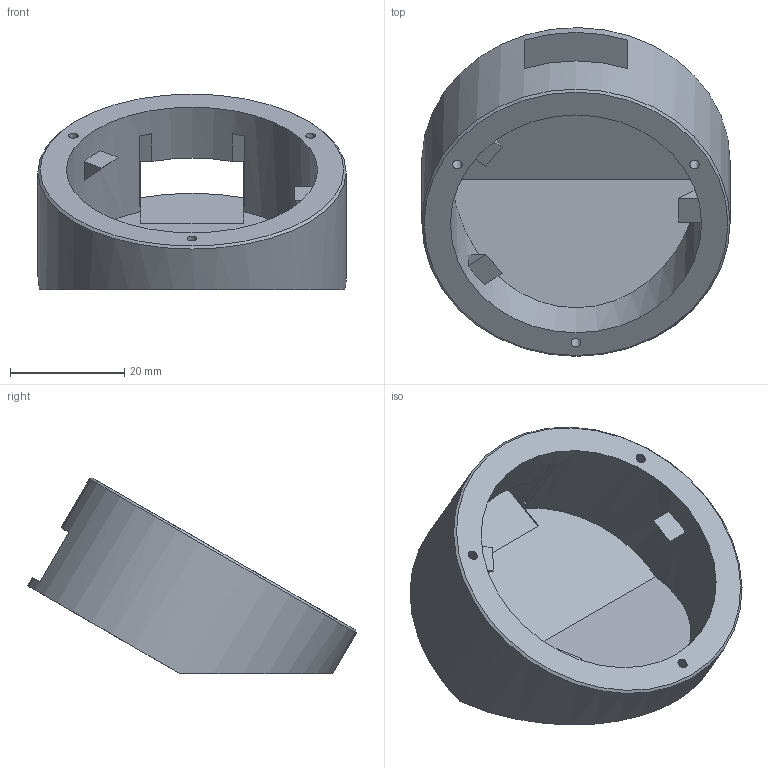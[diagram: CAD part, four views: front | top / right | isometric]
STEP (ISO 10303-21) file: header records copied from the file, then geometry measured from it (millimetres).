
FILE_DESCRIPTION(('Open CASCADE Model'),'2;1');
FILE_NAME('Open CASCADE Shape Model','2026-11-04T17:15:18',('Author'),( 'Open CASCADE'),'Open CASCADE STEP processor 7.9','Open CASCADE 7.9' ,'Unknown');
FILE_SCHEMA(('AUTOMOTIVE_DESIGN { 1 0 10303 214 1 1 1 1 }'));
Length unit declared in the file: millimetre
Products named in the file (1): Open CASCADE STEP translator 7.9 1
Bounding box: 54 x 57.56 x 34.3 mm (x, y, z)
Volume: 16879.2 mm3; surface area: 10348.1 mm2
Topology: 1 solids, 1 shells, 39 faces, 95 edges, 63 vertices
Faces by surface type: plane 33, cylinder 5, cone 1
Full cylindrical faces by diameter (mm): 1.7 x3, 44 x1, 54 x1
Entity records: 2479 total; most frequent: CARTESIAN_POINT 626, DIRECTION 324, ORIENTED_EDGE 190, PCURVE 190, DEFINITIONAL_REPRESENTATION 190, LINE 168, VECTOR 168, EDGE_CURVE 95
